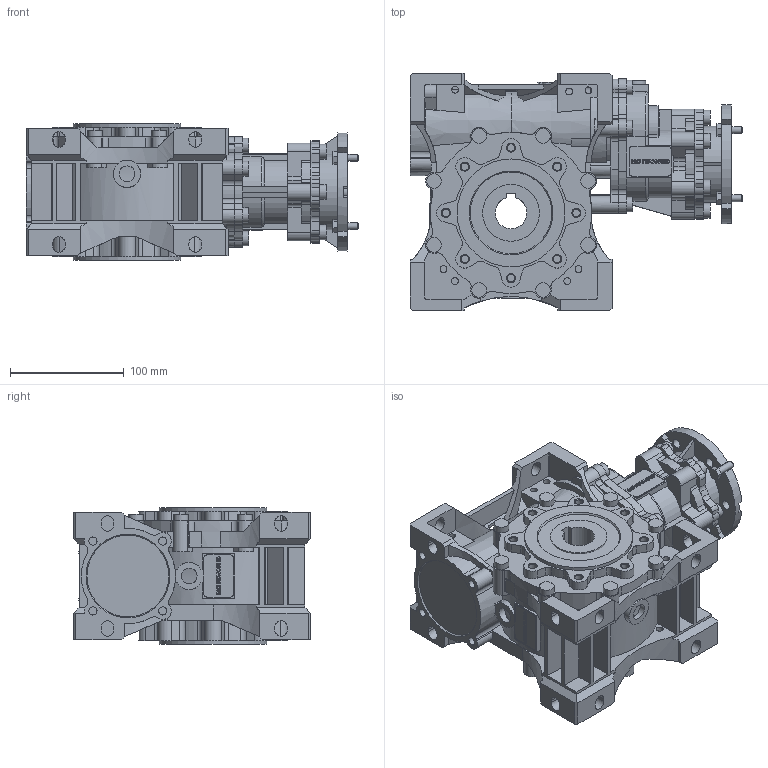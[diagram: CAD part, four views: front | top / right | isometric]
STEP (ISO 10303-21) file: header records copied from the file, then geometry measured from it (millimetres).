
FILE_DESCRIPTION(/* description */ ('STEP AP214'),/* implementation_level */ '2;1');
FILE_NAME(/* name */ 'NMRVP_HW 030-075 109.09 (5.45x20) 105x14 28 NO NO - - NO - - - NO NO - --(--------)',/* time_stamp */ '2024-10-08T10:19:52+02:00',/* author */ ('License CC BY-ND 4.0'),/* organization */ ('CADENAS'),/* preprocessor_version */ 'ST-DEVELOPER v19.3',/* originating_system */ 'PARTsolutions',/* authorisation */ ' ');
FILE_SCHEMA (('AUTOMOTIVE_DESIGN {1 0 10303 214 3 1 1}'));
Products named in the file (8): NMRVP/HW 030-075 109.09 (5.45x20) 105x14 28 NO NO - - NO - - - NO NO 
- --(--------); W.075.01.M; 075-28 (120); W.075.14.14.M-phw; 75-50; HW30; 6371 B14; PC.030.27.14.M
Assembly tree (7 placements, depth 2):
  NMRVP/HW 030-075 109.09 (5.45x20) 105x14 28 NO NO - - NO - - - NO NO 
- --(--------)
    W.075.01.M
    075-28 (120)
    W.075.14.14.M-phw
    75-50
    HW30
    6371 B14
    PC.030.27.14.M
Bounding box: 292.44 x 209 x 120 mm (x, y, z)
Volume: 3092239.9 mm3; surface area: 435374.9 mm2
Topology: 7 solids, 13 shells, 1853 faces, 5025 edges, 3331 vertices
Faces by surface type: plane 1031, cylinder 774, cone 42, torus 6
Full cylindrical faces by diameter (mm): 6 x18, 6.647 x16, 7.26 x12, 8.5 x6, 10 x1, 13 x20, 14 x3, 18 x1, 20 x1, 24 x1, 29 x1, 31 x1, 34 x1, 35 x1, 40 x1, 42 x1, 48 x1, 50 x3, 68 x5, 70 x1, 95 x2
Entity records: 71267 total; most frequent: CARTESIAN_POINT 10661, DIRECTION 10178, ORIENTED_EDGE 9762, EDGE_CURVE 4881, AXIS2_PLACEMENT_3D 3588, VERTEX_POINT 3314, LINE 3002, VECTOR 3002
